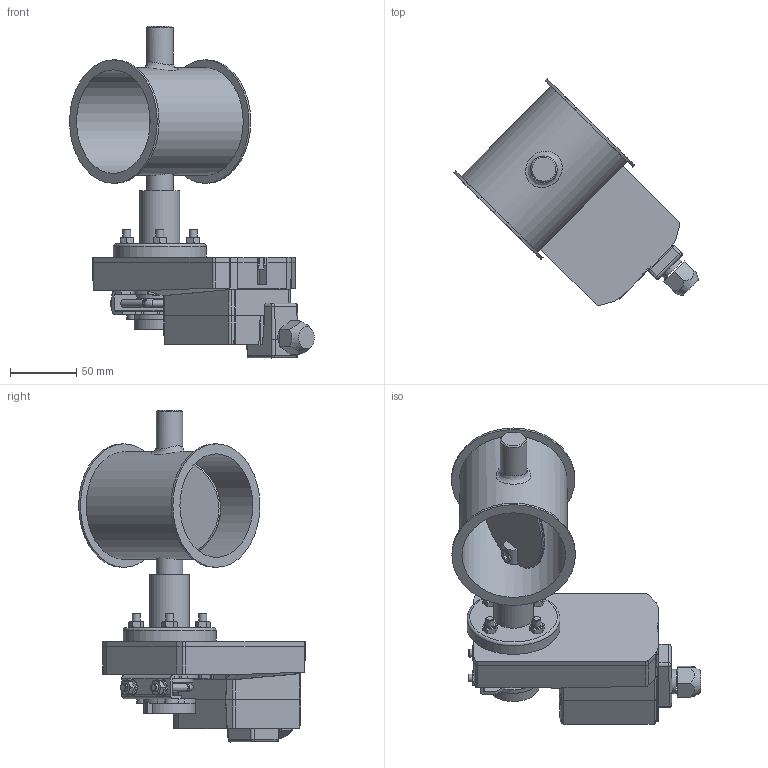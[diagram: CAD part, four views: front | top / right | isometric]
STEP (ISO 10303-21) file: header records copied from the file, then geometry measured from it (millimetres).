
FILE_DESCRIPTION((''),'2;1');
FILE_NAME('U:\Wolfgang\Marcel-3D\fertig\Kapitel 8\0821215.stp','2011-05-03T15:07:23',('TK1'),(''),'Autodesk Inventor 2010','Autodesk Inventor 2010','');
FILE_SCHEMA(('AUTOMOTIVE_DESIGN { 1 0 10303 214 1 1 1 1 }'));
Length unit declared in the file: millimetre
Products named in the file (11): 0821215; Bolzen D15; Scheibe80; DIN 6912 M6 x 16; SM24A-Antrieb; BuchseD15 70-50; Distanzstück S; SM24A--A_standard_terminal_1cable; DIN 7991 M6x25; DIN 555 - ersetzt durch DIN EN 24034 M6; 0811075-1
Assembly tree (18 placements, depth 3):
  0821215
    Bolzen D15  x2
    Scheibe80
    DIN 6912 M6 x 16  x2
    SM24A-Antrieb
      BuchseD15 70-50
      Distanzstück S
      SM24A--A_standard_terminal_1cable
      DIN 7991 M6x25  x4
      DIN 555 - ersetzt durch DIN EN 24034 M6  x4
    0811075-1
Bounding box: 184.43 x 170.75 x 250 mm (x, y, z)
Volume: 661099.8 mm3; surface area: 192794.5 mm2
Topology: 20 solids, 20 shells, 710 faces, 1769 edges, 1134 vertices
Faces by surface type: plane 379, cylinder 179, bspline 86, cone 38, torus 20, sphere 8
Full cylindrical faces by diameter (mm): 3 x2, 3.6 x2, 4.2 x4, 4.773 x4, 4.813 x4, 5.1 x1, 5.25 x4, 6 x14, 7 x4, 9.742 x1, 10 x4, 10.083 x1, 12 x4, 14 x4, 15 x2, 15.5 x1, 18.5 x1, 20 x2, 24 x1, 25.194 x1, 26 x2, 30 x1, 30.042 x1, 35 x2, 70 x1, 78 x2, 81 x1, 93 x2
Entity records: 19734 total; most frequent: CARTESIAN_POINT 5150, ORIENTED_EDGE 2828, DIRECTION 2724, EDGE_CURVE 1414, AXIS2_PLACEMENT_3D 972, VERTEX_POINT 963, VECTOR 780, LINE 780
